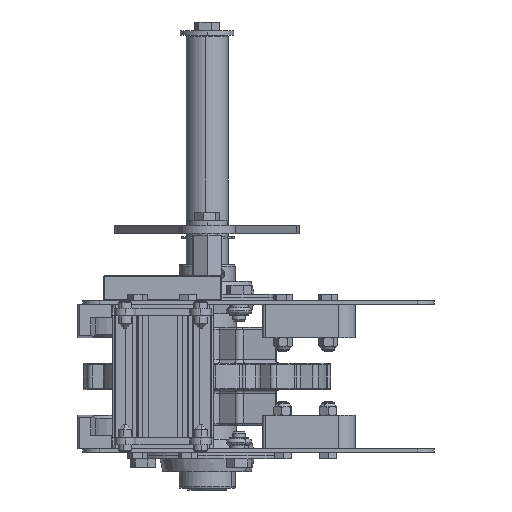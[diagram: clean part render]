
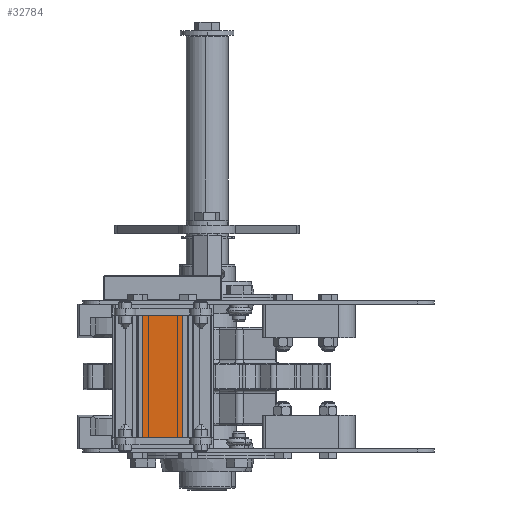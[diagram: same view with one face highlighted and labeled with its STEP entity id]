
A CAD part, left-side view. The second image highlights one B-rep face of the part: STEP entity #32784.
In plain terms, the highlighted planar face has unit normal (-1, 0, 0) as drawn and (0, 0, -1) by its records, which use the part's own axes.
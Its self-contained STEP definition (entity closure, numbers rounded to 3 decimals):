
#555 = CARTESIAN_POINT ( 'NONE',  ( -36.5, -3.15, -15. ) ) ;
#2466 = CARTESIAN_POINT ( 'NONE',  ( 36.5, -26.85, -15. ) ) ;
#3203 = VERTEX_POINT ( 'NONE', #23608 ) ;
#3307 = DIRECTION ( 'NONE',  ( 0., 1., 0. ) ) ;
#3431 = ORIENTED_EDGE ( 'NONE', *, *, #3854, .T. ) ;
#3854 = EDGE_CURVE ( 'NONE', #11224, #33344, #31661, .T. ) ;
#4057 = VECTOR ( 'NONE', #26334, 1000. ) ;
#5017 = ORIENTED_EDGE ( 'NONE', *, *, #37279, .F. ) ;
#6195 = VERTEX_POINT ( 'NONE', #555 ) ;
#9008 = CARTESIAN_POINT ( 'NONE',  ( -36.5, -26.85, -15. ) ) ;
#10069 = LINE ( 'NONE', #37594, #25767 ) ;
#10929 = ORIENTED_EDGE ( 'NONE', *, *, #18707, .T. ) ;
#11224 = VERTEX_POINT ( 'NONE', #28203 ) ;
#12111 = PLANE ( 'NONE',  #18581 ) ;
#12429 = LINE ( 'NONE', #23043, #4057 ) ;
#13620 = CARTESIAN_POINT ( 'NONE',  ( 36.5, -26.85, -15. ) ) ;
#16206 = CARTESIAN_POINT ( 'NONE',  ( -36.5, -26.85, -15. ) ) ;
#18397 = DIRECTION ( 'NONE',  ( 0., -1., 0. ) ) ;
#18581 = AXIS2_PLACEMENT_3D ( 'NONE', #2466, #37161, #18397 ) ;
#18707 = EDGE_CURVE ( 'NONE', #33344, #6195, #26567, .T. ) ;
#19897 = DIRECTION ( 'NONE',  ( -1., 0., 0. ) ) ;
#23043 = CARTESIAN_POINT ( 'NONE',  ( 36.5, -3.15, -15. ) ) ;
#23608 = CARTESIAN_POINT ( 'NONE',  ( 36.5, -3.15, -15. ) ) ;
#24605 = VECTOR ( 'NONE', #31911, 1000. ) ;
#25767 = VECTOR ( 'NONE', #3307, 1000. ) ;
#26334 = DIRECTION ( 'NONE',  ( -1., 0., 0. ) ) ;
#26567 = LINE ( 'NONE', #16206, #24605 ) ;
#27147 = FACE_OUTER_BOUND ( 'NONE', #30605, .T. ) ;
#27802 = ORIENTED_EDGE ( 'NONE', *, *, #30920, .F. ) ;
#28203 = CARTESIAN_POINT ( 'NONE',  ( 36.5, -26.85, -15. ) ) ;
#30605 = EDGE_LOOP ( 'NONE', ( #10929, #27802, #5017, #3431 ) ) ;
#30920 = EDGE_CURVE ( 'NONE', #3203, #6195, #12429, .T. ) ;
#31661 = LINE ( 'NONE', #13620, #40013 ) ;
#31911 = DIRECTION ( 'NONE',  ( 0., 1., 0. ) ) ;
#32784 = ADVANCED_FACE ( 'NONE', ( #27147 ), #12111, .F. ) ;
#33344 = VERTEX_POINT ( 'NONE', #9008 ) ;
#37161 = DIRECTION ( 'NONE',  ( 0., 0., 1. ) ) ;
#37279 = EDGE_CURVE ( 'NONE', #11224, #3203, #10069, .T. ) ;
#37594 = CARTESIAN_POINT ( 'NONE',  ( 36.5, -26.85, -15. ) ) ;
#40013 = VECTOR ( 'NONE', #19897, 1000. ) ;
